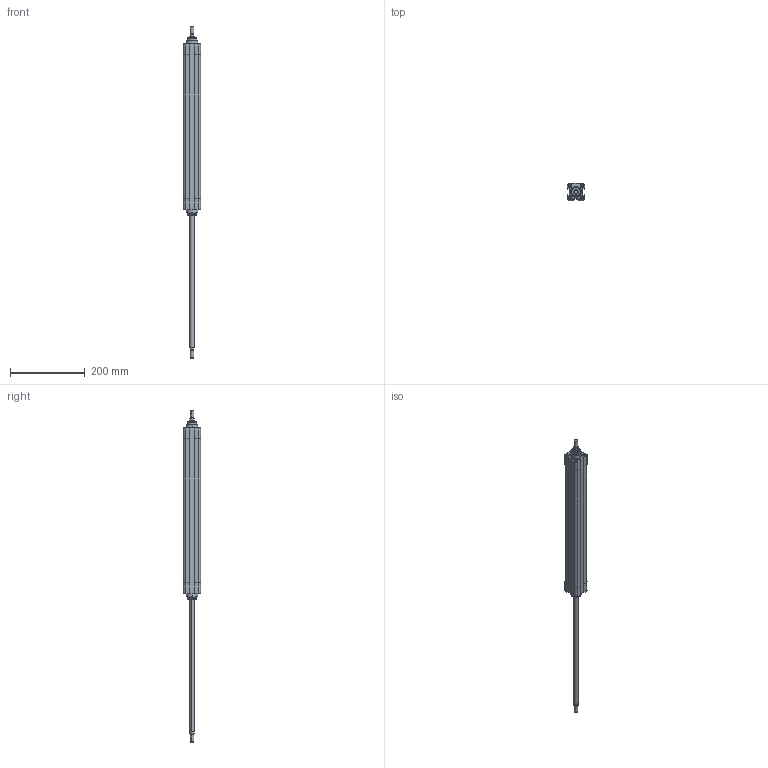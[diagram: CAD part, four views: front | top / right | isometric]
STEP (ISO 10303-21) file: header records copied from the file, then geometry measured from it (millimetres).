
FILE_DESCRIPTION((''),'2;1');
FILE_NAME('F:\Lib-3d\1380\CIL\1380_32_0350_02.stp','2004-01-07T16:00:18',('maffial1'),(''),'Autodesk Inventor 8','Autodesk Inventor 8','');
FILE_SCHEMA(('AUTOMOTIVE_DESIGN { 1 0 10303 214 1 1 1 1 }'));
Length unit declared in the file: millimetre
Products named in the file (3): 1380_32_0350_02; CPP04_32_350; CPP03_32_350
Assembly tree (2 placements, depth 2):
  1380_32_0350_02
    CPP04_32_350
    CPP03_32_350
Bounding box: 46 x 46 x 890 mm (x, y, z)
Volume: 886897.1 mm3; surface area: 161694.7 mm2
Topology: 2 solids, 2 shells, 236 faces, 564 edges, 356 vertices
Faces by surface type: plane 80, cylinder 66, bspline 62, cone 24, torus 4
Entity records: 7513 total; most frequent: CARTESIAN_POINT 2031, DIRECTION 1154, ORIENTED_EDGE 1096, EDGE_CURVE 548, AXIS2_PLACEMENT_3D 427, VERTEX_POINT 356, VECTOR 300, LINE 300
